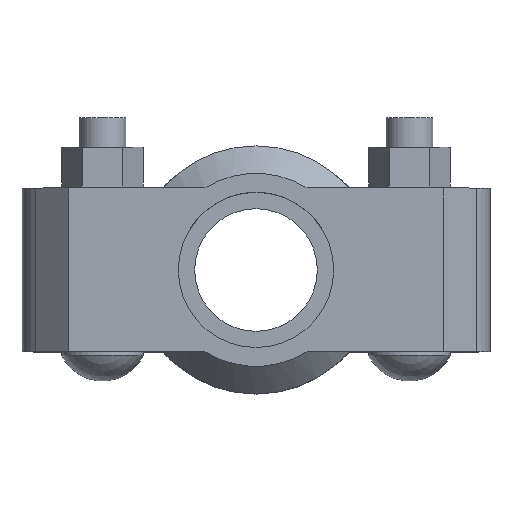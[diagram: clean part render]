
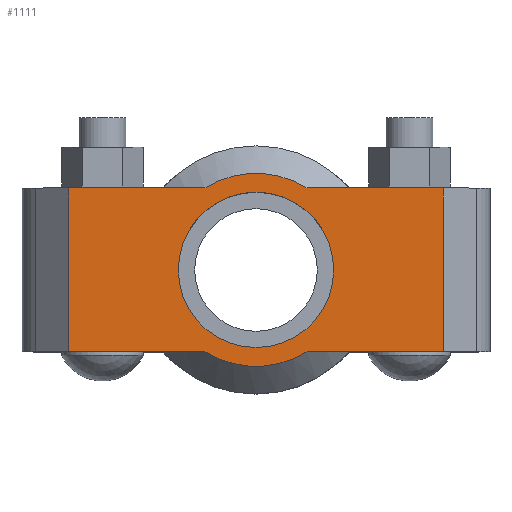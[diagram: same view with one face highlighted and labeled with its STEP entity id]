
A CAD part, top view. The second image highlights one B-rep face of the part: STEP entity #1111.
In plain terms, the highlighted planar face has unit normal (0, 0, 1).
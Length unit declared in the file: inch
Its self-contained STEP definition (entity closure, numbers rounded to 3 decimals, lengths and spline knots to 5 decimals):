
#75=FACE_BOUND('',#226,.T.);
#105=PLANE('',#1226);
#153=FACE_OUTER_BOUND('',#225,.T.);
#225=EDGE_LOOP('',(#888,#889,#890,#891,#892,#893,#894,#895));
#226=EDGE_LOOP('',(#896));
#298=LINE('',#1752,#385);
#313=LINE('',#1811,#400);
#321=LINE('',#1841,#408);
#323=LINE('',#1844,#410);
#324=LINE('',#1849,#411);
#325=LINE('',#1850,#412);
#385=VECTOR('',#1433,0.3937);
#400=VECTOR('',#1468,0.3937);
#408=VECTOR('',#1488,0.3937);
#410=VECTOR('',#1492,0.3937);
#411=VECTOR('',#1497,0.3937);
#412=VECTOR('',#1498,0.3937);
#437=CIRCLE('',#1183,0.83);
#453=CIRCLE('',#1227,1.031);
#454=CIRCLE('',#1228,1.031);
#480=VERTEX_POINT('',#1644);
#515=VERTEX_POINT('',#1749);
#516=VERTEX_POINT('',#1751);
#537=VERTEX_POINT('',#1806);
#538=VERTEX_POINT('',#1810);
#547=VERTEX_POINT('',#1836);
#548=VERTEX_POINT('',#1840);
#549=VERTEX_POINT('',#1846);
#550=VERTEX_POINT('',#1848);
#581=EDGE_CURVE('',#480,#480,#437,.T.);
#632=EDGE_CURVE('',#516,#515,#298,.T.);
#657=EDGE_CURVE('',#538,#537,#313,.T.);
#670=EDGE_CURVE('',#548,#547,#321,.T.);
#672=EDGE_CURVE('',#548,#515,#323,.T.);
#673=EDGE_CURVE('',#547,#549,#453,.T.);
#674=EDGE_CURVE('',#549,#550,#324,.T.);
#675=EDGE_CURVE('',#538,#550,#325,.T.);
#676=EDGE_CURVE('',#537,#516,#454,.T.);
#888=ORIENTED_EDGE('',*,*,#672,.F.);
#889=ORIENTED_EDGE('',*,*,#670,.T.);
#890=ORIENTED_EDGE('',*,*,#673,.T.);
#891=ORIENTED_EDGE('',*,*,#674,.T.);
#892=ORIENTED_EDGE('',*,*,#675,.F.);
#893=ORIENTED_EDGE('',*,*,#657,.T.);
#894=ORIENTED_EDGE('',*,*,#676,.T.);
#895=ORIENTED_EDGE('',*,*,#632,.T.);
#896=ORIENTED_EDGE('',*,*,#581,.T.);
#1111=ADVANCED_FACE('',(#153,#75),#105,.T.);
#1183=AXIS2_PLACEMENT_3D('',#1646,#1337,#1338);
#1226=AXIS2_PLACEMENT_3D('',#1845,#1493,#1494);
#1227=AXIS2_PLACEMENT_3D('',#1847,#1495,#1496);
#1228=AXIS2_PLACEMENT_3D('',#1851,#1499,#1500);
#1337=DIRECTION('center_axis',(0.,0.,-1.));
#1338=DIRECTION('ref_axis',(1.,0.,0.));
#1433=DIRECTION('',(1.,0.,0.));
#1468=DIRECTION('',(1.,0.,0.));
#1488=DIRECTION('',(-1.,0.,0.));
#1492=DIRECTION('',(0.,-1.,0.));
#1493=DIRECTION('center_axis',(0.,0.,1.));
#1494=DIRECTION('ref_axis',(-1.,0.,0.));
#1495=DIRECTION('center_axis',(0.,0.,1.));
#1496=DIRECTION('ref_axis',(1.,0.,0.));
#1497=DIRECTION('',(-1.,0.,0.));
#1498=DIRECTION('',(0.,1.,0.));
#1499=DIRECTION('center_axis',(0.,0.,1.));
#1500=DIRECTION('ref_axis',(1.,0.,0.));
#1644=CARTESIAN_POINT('',(-0.83,0.,0.94));
#1646=CARTESIAN_POINT('Origin',(0.,0.,0.94));
#1749=CARTESIAN_POINT('',(2.,-0.875,0.94));
#1751=CARTESIAN_POINT('',(0.54529,-0.875,0.94));
#1752=CARTESIAN_POINT('',(-2.5,-0.875,0.94));
#1806=CARTESIAN_POINT('',(-0.54529,-0.875,0.94));
#1810=CARTESIAN_POINT('',(-2.,-0.875,0.94));
#1811=CARTESIAN_POINT('',(-2.5,-0.875,0.94));
#1836=CARTESIAN_POINT('',(0.54529,0.875,0.94));
#1840=CARTESIAN_POINT('',(2.,0.875,0.94));
#1841=CARTESIAN_POINT('',(2.5,0.875,0.94));
#1844=CARTESIAN_POINT('',(2.,-0.4375,0.94));
#1845=CARTESIAN_POINT('Origin',(0.,0.,
0.94));
#1846=CARTESIAN_POINT('',(-0.54529,0.875,0.94));
#1847=CARTESIAN_POINT('Origin',(0.,0.,0.94));
#1848=CARTESIAN_POINT('',(-2.,0.875,0.94));
#1849=CARTESIAN_POINT('',(2.5,0.875,0.94));
#1850=CARTESIAN_POINT('',(-2.,0.4375,0.94));
#1851=CARTESIAN_POINT('Origin',(0.,0.,0.94));
